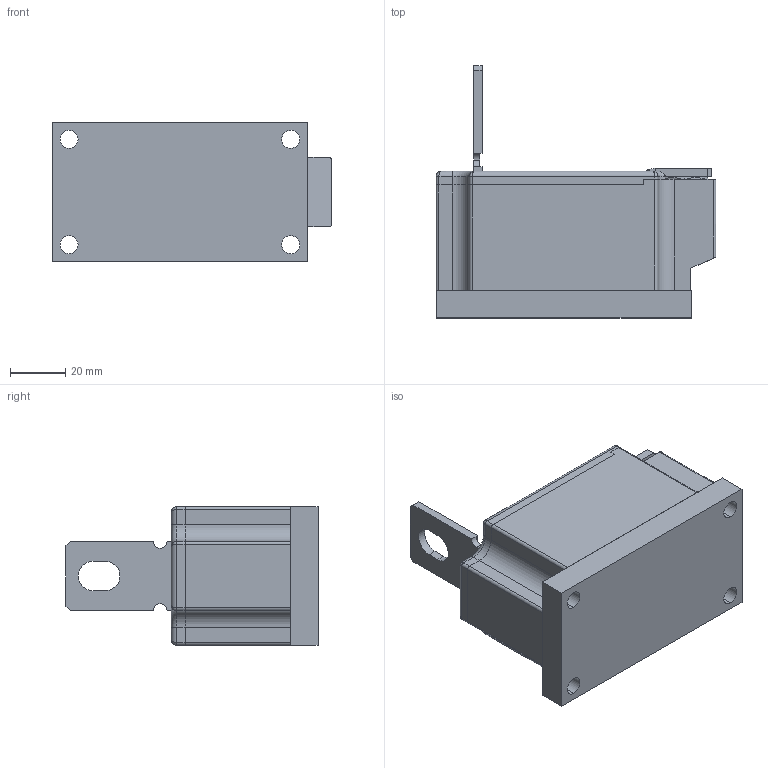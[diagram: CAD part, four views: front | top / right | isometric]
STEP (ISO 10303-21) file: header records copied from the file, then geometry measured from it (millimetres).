
FILE_DESCRIPTION (( 'STEP AP214' ), '1' );
FILE_NAME ('MTD4-1.STEP', '2021-02-03T08:04:42', ( '' ), ( '' ), 'SwSTEP 2.0', 'SolidWorks 2018', '' );
FILE_SCHEMA (( 'AUTOMOTIVE_DESIGN' ));
Length unit declared in the file: millimetre
Products named in the file (1): MTD4-1
Bounding box: 101 x 91 x 50 mm (x, y, z)
Volume: 104416 mm3; surface area: 57985.1 mm2
Topology: 6 solids, 6 shells, 316 faces, 866 edges, 556 vertices
Faces by surface type: plane 220, cylinder 76, bspline 8, cone 4, sphere 4, torus 4
Entity records: 14169 total; most frequent: CARTESIAN_POINT 2587, ORIENTED_EDGE 1704, DIRECTION 1598, EDGE_CURVE 852, LINE 652, VECTOR 652, VERTEX_POINT 552, AXIS2_PLACEMENT_3D 473
